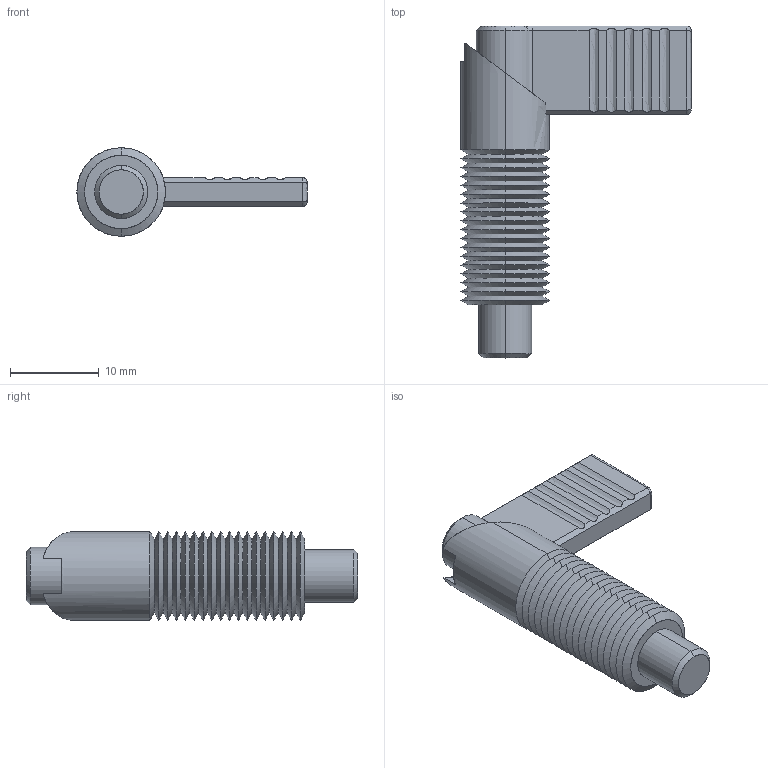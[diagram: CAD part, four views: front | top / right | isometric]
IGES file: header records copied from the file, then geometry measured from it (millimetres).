
Start section: SolidWorks IGES file using analytic representation for surfaces
Global section: file name: C:\Documents and Settings\IANO\My Documents\Wix and Auto CAD Work\CAD Models\Parametric Models\Wix Models\30000\32500_v2\32500_v2_20160309_IGES\32500.W0002.igs; native system: SolidWorks 2009; preprocessor: SolidWorks 2009; author: IANO; date: 160630.164154; units: millimetre
Bounding box: 26 x 37.5 x 10 mm (x, y, z)
Surface area: 3139.7 mm2 (no closed solid volume)
Topology: 0 solids, 0 shells, 151 faces, 1354 edges, 1354 vertices
Faces by surface type: revolution 124, bspline 27
